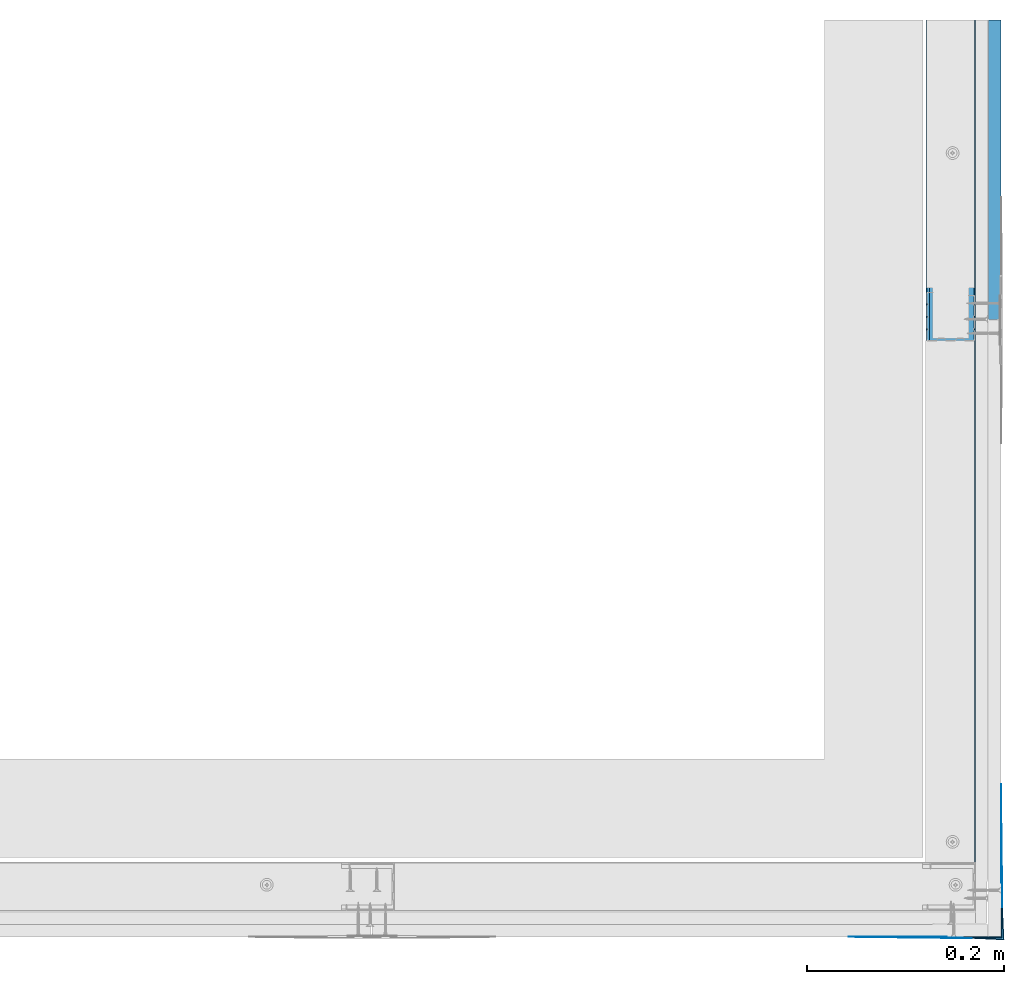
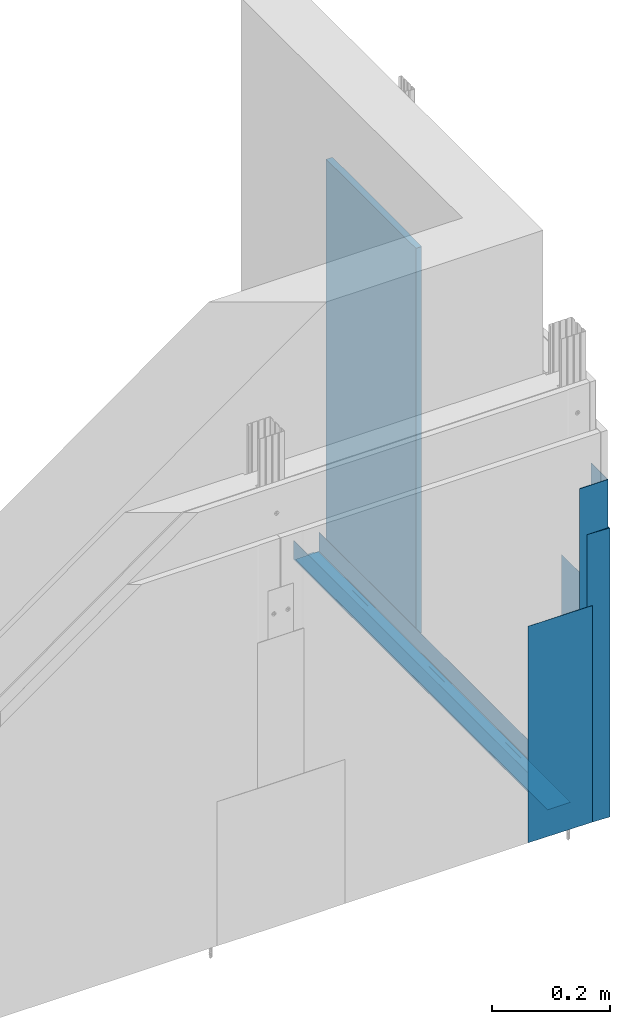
# One storey, part 3 of 43: 7 walls.
"""IFC2X3 building model written with IfcOpenShell, lengths in millimetres."""

from ifc_helpers import new_model, entity, si_unit, converted_unit, direction, frame, origin, origin_with_axes, place, context, project, spatial, faceted_brep, element, save


model = new_model("IFC2X3")

# Units and contexts
model_context = context("Model", 3, precision=1e-05, world=origin(), true_north=direction((0.0, 1.0, 0.0)))
ifc_project = project(units=[si_unit("LENGTHUNIT", "METRE", prefix="MILLI"), si_unit("AREAUNIT", "SQUARE_METRE"), si_unit("VOLUMEUNIT", "CUBIC_METRE"), converted_unit("PLANEANGLEUNIT", "DEGREE", entity("IfcPlaneAngleMeasure", 0.01745), si_unit("PLANEANGLEUNIT", "RADIAN"), dimensions=[0, 0, 0, 0, 0, 0, 0]), si_unit("SOLIDANGLEUNIT", "STERADIAN"), si_unit("MASSUNIT", "GRAM"), si_unit("TIMEUNIT", "SECOND"), si_unit("THERMODYNAMICTEMPERATUREUNIT", "DEGREE_CELSIUS"), si_unit("LUMINOUSINTENSITYUNIT", "LUMEN")], contexts=[model_context])

# Site, building, storey
site_placement = place(None, origin_with_axes())
site = spatial("IfcSite", under=ifc_project, at=site_placement, Name="Default Site", CompositionType="ELEMENT")
building_placement = place(site_placement, origin_with_axes())
building = spatial("IfcBuilding", under=site, at=building_placement, Name="Default Building", CompositionType="ELEMENT")
storey_placement = place(building_placement, origin_with_axes())
storey = spatial("IfcBuildingStorey", under=building, at=storey_placement, Name="Default Building Storey", CompositionType="ELEMENT", Elevation=0.0)

# Walls
wall_1_placement = place(storey_placement, frame((7226.363863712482, 2727.475345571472, 8.24899725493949), z_axis=(-6.858158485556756e-13, 7.620176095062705e-14, 1.0), x_axis=(1.135951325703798e-15, 1.0, -7.620176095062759e-14)))
element("IfcWall", 1, at=wall_1_placement, inside=storey, Name="Profil RIGIPS UW50 ULTRASTIL®", context=model_context, shape_type="Brep", body=[
    faceted_brep([(-709.8976152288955, 3479.733223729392, 35.00000000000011), (-709.8976152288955, 3480.283223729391, 35.00000000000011), (-709.897615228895, 3480.283223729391, -4.19999999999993), (-709.897615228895, 3480.273374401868, -4.32514757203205), (-709.897615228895, 3480.244068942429, -4.447213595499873), (-709.897615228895, 3480.196028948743, -4.563192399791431), (-709.897615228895, 3480.130437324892, -4.670228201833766), (-709.897615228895, 3480.04890915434, -4.765685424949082), (-709.897615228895, 3479.953451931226, -4.84721359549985), (-709.897615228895, 3479.846416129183, -4.912805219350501), (-709.897615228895, 3479.730437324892, -4.960845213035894), (-709.897615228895, 3479.608371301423, -4.990150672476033), (-709.897615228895, 3479.483223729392, -4.999999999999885), (-709.897615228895, 3470.908620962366, -4.999999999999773), (-709.897615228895, 3470.686924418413, -4.975115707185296), (-709.897615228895, 3470.476261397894, -4.901701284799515), (-709.897615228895, 3470.128902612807, -4.626130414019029), (-709.897615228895, 3470.009494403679, -4.437688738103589), (-709.897615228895, 3469.68072520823, -3.762311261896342), (-709.897615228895, 3469.561316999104, -3.573869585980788), (-709.8976152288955, 3469.403103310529, -3.416589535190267), (-709.8976152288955, 3469.213958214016, -3.298298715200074), (-709.8976152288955, 3469.003295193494, -3.224884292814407), (-709.8976152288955, 3468.781598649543, -3.19999999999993), (-709.8976152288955, 3441.78484880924, -3.199999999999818), (-709.8976152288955, 3441.563152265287, -3.224884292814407), (-709.8976152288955, 3441.352489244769, -3.298298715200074), (-709.8976152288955, 3441.163344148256, -3.416589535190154), (-709.897615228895, 3441.005130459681, -3.573869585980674), (-709.897615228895, 3440.885722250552, -3.762311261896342), (-709.897615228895, 3440.556953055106, -4.437688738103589), (-709.897615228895, 3440.437544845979, -4.626130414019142), (-709.897615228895, 3440.279331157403, -4.783410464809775), (-709.897615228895, 3439.87952304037, -4.97511570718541), (-709.897615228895, 3439.657826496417, -4.999999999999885), (-709.897615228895, 3431.083223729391, -4.999999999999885), (-709.897615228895, 3430.95807615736, -4.990150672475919), (-709.897615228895, 3430.836010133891, -4.960845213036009), (-709.897615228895, 3430.7200313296, -4.912805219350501), (-709.897615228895, 3430.612995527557, -4.847213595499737), (-709.897615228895, 3430.517538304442, -4.765685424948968), (-709.897615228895, 3430.436010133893, -4.670228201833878), (-709.897615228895, 3430.370418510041, -4.563192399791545), (-709.897615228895, 3430.322378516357, -4.447213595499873), (-709.897615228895, 3430.293073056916, -4.32514757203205), (-709.897615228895, 3430.283223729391, -4.19999999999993), (-709.8976152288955, 3430.283223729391, 35.00000000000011), (-709.8976152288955, 3430.833223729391, 35.00000000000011), (-709.897615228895, 3430.833223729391, -4.19999999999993), (-709.897615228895, 3430.836301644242, -4.239108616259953), (-709.897615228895, 3430.845459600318, -4.277254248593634), (-709.897615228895, 3430.860472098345, -4.313497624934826), (-709.897615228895, 3430.880969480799, -4.34694631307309), (-709.897615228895, 3430.906447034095, -4.376776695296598), (-709.897615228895, 3430.93627741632, -4.402254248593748), (-709.897615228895, 3430.969726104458, -4.422751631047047), (-709.897615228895, 3431.005969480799, -4.437764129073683), (-709.897615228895, 3431.044115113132, -4.446922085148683), (-709.897615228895, 3431.083223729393, -4.44999999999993), (-709.897615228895, 3439.313858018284, -4.450000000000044), (-709.897615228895, 3439.535554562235, -4.425115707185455), (-709.897615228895, 3439.746217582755, -4.351701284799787), (-709.897615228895, 3439.935362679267, -4.233410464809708), (-709.897615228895, 3440.093576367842, -4.076130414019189), (-709.897615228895, 3440.21298457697, -3.88768873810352), (-709.8976152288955, 3440.541753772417, -3.212311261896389), (-709.8976152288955, 3440.661161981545, -3.023869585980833), (-709.8976152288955, 3440.819375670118, -2.866589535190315), (-709.8976152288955, 3441.219183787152, -2.674884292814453), (-709.8976152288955, 3441.440880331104, -2.649999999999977), (-709.8976152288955, 3469.125567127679, -2.649999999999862), (-709.8976152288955, 3469.347263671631, -2.674884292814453), (-709.8976152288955, 3469.557926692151, -2.748298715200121), (-709.8976152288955, 3469.905285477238, -3.023869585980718), (-709.8976152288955, 3470.024693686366, -3.212311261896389), (-709.897615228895, 3470.353462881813, -3.88768873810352), (-709.897615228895, 3470.472871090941, -4.076130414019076), (-709.897615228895, 3470.631084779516, -4.233410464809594), (-709.897615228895, 3470.82022987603, -4.351701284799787), (-709.897615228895, 3471.030892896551, -4.425115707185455), (-709.897615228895, 3471.252589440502, -4.44999999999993), (-709.897615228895, 3479.483223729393, -4.449999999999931), (-709.897615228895, 3479.522332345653, -4.446922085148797), (-709.897615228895, 3479.560477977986, -4.437764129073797), (-709.897615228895, 3479.596721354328, -4.422751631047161), (-709.897615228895, 3479.630170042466, -4.402254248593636), (-709.897615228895, 3479.660000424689, -4.376776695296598), (-709.897615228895, 3479.685477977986, -4.34694631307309), (-709.897615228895, 3479.705975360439, -4.313497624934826), (-709.897615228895, 3479.720987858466, -4.277254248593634), (-709.897615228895, 3479.730145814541, -4.239108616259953), (-709.897615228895, 3479.733223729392, -4.19999999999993), (145.5411587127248, 3480.283223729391, -4.200000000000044), (145.5411587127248, 3480.283223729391, 35.0), (145.5411587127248, 3479.733223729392, 35.0), (145.5411587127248, 3479.733223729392, -4.200000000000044), (145.5411587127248, 3479.730145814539, -4.239108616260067), (145.5411587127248, 3479.720987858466, -4.277254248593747), (145.5411587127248, 3479.705975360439, -4.313497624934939), (145.5411587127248, 3479.685477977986, -4.346946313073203), (145.5411587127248, 3479.660000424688, -4.376776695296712), (145.5411587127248, 3479.630170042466, -4.402254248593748), (145.5411587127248, 3479.596721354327, -4.422751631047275), (145.5411587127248, 3479.560477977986, -4.43776412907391), (145.5411587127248, 3479.522332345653, -4.446922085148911), (145.5411587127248, 3479.483223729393, -4.450000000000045), (145.5411587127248, 3471.252589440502, -4.450000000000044), (145.5411587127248, 3471.03089289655, -4.425115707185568), (145.5411587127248, 3470.820229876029, -4.351701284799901), (145.5411587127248, 3470.631084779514, -4.233410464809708), (145.5411587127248, 3470.472871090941, -4.076130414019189), (145.5411587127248, 3470.353462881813, -3.887688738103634), (145.5411587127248, 3470.024693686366, -3.212311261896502), (145.5411587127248, 3469.905285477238, -3.023869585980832), (145.5411587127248, 3469.557926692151, -2.748298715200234), (145.5411587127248, 3469.34726367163, -2.674884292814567), (145.5411587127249, 3469.125567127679, -2.649999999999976), (145.541158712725, 3441.440880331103, -2.65000000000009), (145.5411587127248, 3441.219183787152, -2.674884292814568), (145.5411587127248, 3440.819375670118, -2.866589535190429), (145.5411587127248, 3440.661161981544, -3.023869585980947), (145.5411587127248, 3440.541753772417, -3.212311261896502), (145.5411587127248, 3440.212984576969, -3.887688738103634), (145.5411587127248, 3440.093576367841, -4.076130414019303), (145.5411587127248, 3439.935362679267, -4.233410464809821), (145.5411587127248, 3439.746217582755, -4.351701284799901), (145.5411587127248, 3439.535554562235, -4.425115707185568), (145.5411587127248, 3439.313858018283, -4.450000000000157), (145.5411587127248, 3431.083223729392, -4.450000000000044), (145.5411587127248, 3431.044115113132, -4.446922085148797), (145.5411587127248, 3431.005969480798, -4.437764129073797), (145.5411587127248, 3430.969726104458, -4.422751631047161), (145.5411587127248, 3430.936277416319, -4.402254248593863), (145.5411587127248, 3430.906447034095, -4.376776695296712), (145.5411587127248, 3430.880969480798, -4.346946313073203), (145.5411587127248, 3430.860472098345, -4.313497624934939), (145.5411587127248, 3430.845459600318, -4.277254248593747), (145.5411587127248, 3430.836301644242, -4.239108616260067), (145.5411587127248, 3430.833223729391, -4.200000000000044), (145.5411587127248, 3430.833223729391, 35.0), (145.5411587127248, 3430.283223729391, 35.0), (145.5411587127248, 3430.283223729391, -4.200000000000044), (145.5411587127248, 3430.293073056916, -4.325147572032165), (145.5411587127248, 3430.322378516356, -4.447213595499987), (145.5411587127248, 3430.370418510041, -4.563192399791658), (145.5411587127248, 3430.436010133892, -4.670228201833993), (145.5411587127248, 3430.517538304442, -4.765685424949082), (145.5411587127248, 3430.612995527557, -4.84721359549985), (145.5411587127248, 3430.7200313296, -4.912805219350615), (145.5411587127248, 3430.836010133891, -4.960845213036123), (145.5411587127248, 3430.958076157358, -4.990150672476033), (145.5411587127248, 3431.083223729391, -4.999999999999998), (145.5411587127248, 3439.657826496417, -4.999999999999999), (145.5411587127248, 3439.879523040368, -4.975115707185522), (145.5411587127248, 3440.279331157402, -4.783410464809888), (145.5411587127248, 3440.437544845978, -4.626130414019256), (145.5411587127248, 3440.556953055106, -4.437688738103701), (145.5411587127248, 3440.885722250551, -3.762311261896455), (145.5411587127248, 3441.005130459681, -3.573869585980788), (145.5411587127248, 3441.163344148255, -3.416589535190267), (145.5411587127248, 3441.352489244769, -3.298298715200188), (145.5411587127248, 3441.563152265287, -3.224884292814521), (145.5411587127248, 3441.78484880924, -3.199999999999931), (145.5411587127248, 3468.781598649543, -3.200000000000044), (145.5411587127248, 3469.003295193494, -3.224884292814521), (145.5411587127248, 3469.213958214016, -3.298298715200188), (145.5411587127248, 3469.403103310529, -3.416589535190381), (145.5411587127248, 3469.561316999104, -3.573869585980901), (145.5411587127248, 3469.680725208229, -3.762311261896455), (145.5411587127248, 3470.009494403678, -4.437688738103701), (145.5411587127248, 3470.128902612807, -4.626130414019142), (145.5411587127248, 3470.476261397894, -4.901701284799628), (145.5411587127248, 3470.686924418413, -4.97511570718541), (145.5411587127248, 3470.908620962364, -4.999999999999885), (145.5411587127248, 3479.483223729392, -4.999999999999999), (145.5411587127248, 3479.608371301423, -4.990150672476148), (145.5411587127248, 3479.73043732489, -4.960845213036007), (145.5411587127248, 3479.846416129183, -4.912805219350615), (145.5411587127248, 3479.953451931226, -4.847213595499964), (145.5411587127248, 3480.04890915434, -4.765685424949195), (145.5411587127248, 3480.130437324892, -4.670228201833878), (145.5411587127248, 3480.196028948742, -4.563192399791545), (145.5411587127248, 3480.244068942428, -4.447213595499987), (145.5411587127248, 3480.273374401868, -4.325147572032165), (-709.8976152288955, 3441.008520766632, -2.748298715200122), (145.5411587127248, 3441.008520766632, -2.748298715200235), (-709.8976152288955, 3469.747071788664, -2.8665895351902), (145.5411587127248, 3469.747071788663, -2.866589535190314), (-709.897615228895, 3470.063927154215, -4.535249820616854), (145.5411587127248, 3470.063927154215, -4.535249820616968), (-709.897615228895, 3470.287116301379, -4.783410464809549), (145.5411587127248, 3470.287116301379, -4.783410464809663), (-709.897615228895, 3440.09018606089, -4.901701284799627), (145.5411587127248, 3440.09018606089, -4.90170128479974)], [[[0, 1, 2, 3, 4, 5, 6, 7, 8, 9, 10, 11, 12, 13, 14, 15, 16, 17, 18, 19, 20, 21, 22, 23, 24, 25, 26, 27, 28, 29, 30, 31, 32, 33, 34, 35, 36, 37, 38, 39, 40, 41, 42, 43, 44, 45, 46, 47, 48, 49, 50, 51, 52, 53, 54, 55, 56, 57, 58, 59, 60, 61, 62, 63, 64, 65, 66, 67, 68, 69, 70, 71, 72, 73, 74, 75, 76, 77, 78, 79, 80, 81, 82, 83, 84, 85, 86, 87, 88, 89, 90, 91]], [[92, 93, 94, 95, 96, 97, 98, 99, 100, 101, 102, 103, 104, 105, 106, 107, 108, 109, 110, 111, 112, 113, 114, 115, 116, 117, 118, 119, 120, 121, 122, 123, 124, 125, 126, 127, 128, 129, 130, 131, 132, 133, 134, 135, 136, 137, 138, 139, 140, 141, 142, 143, 144, 145, 146, 147, 148, 149, 150, 151, 152, 153, 154, 155, 156, 157, 158, 159, 160, 161, 162, 163, 164, 165, 166, 167, 168, 169, 170, 171, 172, 173, 174, 175, 176, 177, 178, 179, 180, 181, 182, 183]], [[45, 141, 140, 46]], [[46, 140, 139, 47]], [[47, 139, 138, 48]], [[128, 58, 57, 129]], [[56, 130, 129, 57]], [[55, 131, 130, 56]], [[131, 55, 54, 132]], [[53, 133, 132, 54]], [[133, 53, 52, 134]], [[51, 135, 134, 52]], [[50, 136, 135, 51]], [[136, 50, 49, 137]], [[48, 138, 137, 49]], [[58, 128, 127, 59]], [[63, 123, 122, 64]], [[62, 124, 123, 63]], [[61, 125, 124, 62]], [[127, 126, 60, 59]], [[60, 126, 125, 61]], [[64, 122, 121, 65]], [[68, 118, 117, 69]], [[184, 185, 118, 68]], [[67, 119, 185, 184]], [[66, 120, 119, 67]], [[121, 120, 66, 65]], [[69, 117, 116, 70]], [[73, 113, 112, 74]], [[186, 187, 113, 73]], [[72, 114, 187, 186]], [[71, 115, 114, 72]], [[116, 115, 71, 70]], [[74, 112, 111, 75]], [[79, 107, 106, 80]], [[78, 108, 107, 79]], [[77, 109, 108, 78]], [[111, 110, 76, 75]], [[76, 110, 109, 77]], [[80, 106, 105, 81]], [[95, 91, 90, 96]], [[89, 97, 96, 90]], [[88, 98, 97, 89]], [[98, 88, 87, 99]], [[86, 100, 99, 87]], [[100, 86, 85, 101]], [[84, 102, 101, 85]], [[83, 103, 102, 84]], [[103, 83, 82, 104]], [[81, 105, 104, 82]], [[91, 95, 94, 0]], [[0, 94, 93, 1]], [[1, 93, 92, 2]], [[11, 10, 176, 175]], [[175, 174, 12, 11]], [[9, 177, 176, 10]], [[8, 7, 179, 178]], [[178, 177, 9, 8]], [[6, 5, 181, 180]], [[180, 179, 7, 6]], [[4, 182, 181, 5]], [[3, 2, 92, 183]], [[183, 182, 4, 3]], [[12, 174, 173, 13]], [[188, 16, 170, 189]], [[189, 169, 17, 188]], [[190, 191, 170, 16]], [[15, 171, 191, 190]], [[14, 172, 171, 15]], [[173, 172, 14, 13]], [[17, 169, 168, 18]], [[22, 164, 163, 23]], [[21, 165, 164, 22]], [[20, 166, 165, 21]], [[168, 167, 19, 18]], [[19, 167, 166, 20]], [[23, 163, 162, 24]], [[28, 158, 157, 29]], [[27, 159, 158, 28]], [[26, 160, 159, 27]], [[162, 161, 25, 24]], [[25, 161, 160, 26]], [[29, 157, 156, 30]], [[33, 153, 152, 34]], [[192, 193, 153, 33]], [[32, 154, 193, 192]], [[31, 155, 154, 32]], [[156, 155, 31, 30]], [[34, 152, 151, 35]], [[44, 43, 143, 142]], [[142, 141, 45, 44]], [[42, 144, 143, 43]], [[41, 40, 146, 145]], [[145, 144, 42, 41]], [[39, 38, 148, 147]], [[147, 146, 40, 39]], [[37, 149, 148, 38]], [[36, 35, 151, 150]], [[150, 149, 37, 36]]]),
])
wall_2_placement = place(storey_placement, frame((7227.36386371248, 2731.408890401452, 8.248997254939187), z_axis=(-6.858158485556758e-13, 7.620176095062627e-14, 1.0), x_axis=(-4.301336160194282e-16, 1.0, -7.620176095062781e-14)))
element("IfcWall", 2, at=wall_2_placement, inside=storey, Name="Taśma uszczelniająca piankowa RIGIPS", context=model_context, shape_type="Brep", body=[
    faceted_brep([(-713.8311600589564, 3477.783223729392, -5.000000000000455), (-713.8311600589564, 3477.862841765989, -6.006369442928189), (-713.8311600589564, 3432.691889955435, -5.864971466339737), (-713.8311600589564, 3432.783223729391, -5.000000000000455), (141.6076138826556, 3477.862841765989, -6.006369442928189), (141.6076138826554, 3477.783223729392, -5.000000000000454), (141.6076138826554, 3432.783223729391, -5.000000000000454), (141.6076138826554, 3432.691889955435, -5.864971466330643)], [[[0, 1, 2, 3]], [[4, 5, 6, 7]], [[5, 0, 3, 6]], [[6, 3, 2, 7]], [[7, 2, 1, 4]], [[4, 1, 0, 5]]]),
])
wall_3_placement = place(storey_placement, frame((3809.795133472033, 3768.756799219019, 1059.999999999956), z_axis=(0.0, 0.0, 1.0), x_axis=(6.387668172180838e-13, -1.0, 0.0)))
element("IfcWall", 3, at=wall_3_placement, inside=storey, Name="Płyta gipsowo-kartonowa RIGIPS PRO (4PRO™)", context=model_context, shape_type="Brep", body=[
    faceted_brep([(895.7402949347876, -2.793797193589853e-10, -249.9999999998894), (895.7402949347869, 12.49999999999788, -249.9999999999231), (895.7402949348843, 12.49999999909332, -1050.001581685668), (895.7402949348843, -1.183934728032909e-09, -1050.001581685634), (1155.000000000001, 12.49999999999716, -249.9999999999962), (1200.0, 1.443822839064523e-12, -249.9999999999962), (1200.000000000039, 10.49999999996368, -249.9999999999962), (1199.965925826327, 10.75881904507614, -249.9999999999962), (1199.866025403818, 10.99999999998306, -249.9999999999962), (1199.707106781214, 11.20710678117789, -249.9999999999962), (1199.50000000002, 11.36602540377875, -249.9999999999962), (1199.258819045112, 11.46592582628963, -249.9999999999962), (1199.0, 11.50000000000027, -249.9999999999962), (1158.999999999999, 11.50000000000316, -249.9999999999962), (1199.965925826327, 10.75881904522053, -1050.001581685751), (1199.866025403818, 11.00000000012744, -1050.001581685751), (1199.707106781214, 11.20710678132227, -1050.001581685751), (1199.50000000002, 11.36602540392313, -1050.001581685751), (1199.258819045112, 11.46592582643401, -1050.001581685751), (1199.0, 11.50000000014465, -1050.001581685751), (1158.999999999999, 11.50000000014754, -1050.001581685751), (1155.000000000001, 12.50000000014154, -1050.001581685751), (1200.0, 1.458261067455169e-10, -1050.001581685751), (1200.000000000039, 10.50000000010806, -1050.001581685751)], [[[0, 1, 2, 3]], [[4, 1, 0, 5, 6, 7, 8, 9, 10, 11, 12, 13]], [[8, 7, 14, 15]], [[9, 8, 15, 16]], [[10, 9, 16, 17]], [[11, 10, 17, 18]], [[12, 11, 18, 19]], [[13, 12, 19, 20]], [[4, 13, 20, 21]], [[21, 2, 1, 4]], [[0, 3, 22, 5]], [[6, 5, 22, 23]], [[7, 6, 23, 14]], [[14, 23, 22, 3, 2, 21, 20, 19, 18, 17, 16, 15]]]),
])
wall_4_placement = place(storey_placement, frame((3782.295133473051, 1938.180077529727, 809.999999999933), z_axis=(0.0, 0.0, 1.0), x_axis=(1.0, 0.0, 0.0)))
element("IfcWall", 4, at=wall_4_placement, inside=storey, Name="Taśma narożnikowa HABITO® NO-COAT®", context=model_context, shape_type="Brep", body=[
    faceted_brep([(40.99999999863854, 43.00000000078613, -201.6515786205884), (42.99999999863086, 7.829129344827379e-10, -201.6515786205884), (42.99999999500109, 3.099887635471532e-09, -800.0015816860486), (40.99999999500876, 43.0000000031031, -800.0015816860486), (-1.233746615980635e-09, 2.00000000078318, -201.6515786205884), (-4.863517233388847e-09, 2.000000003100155, -800.0015816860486), (40.99999999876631, 2.000000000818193, -201.6515786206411), (40.99999999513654, 2.000000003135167, -800.0015816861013)], [[[0, 1, 2, 3]], [[1, 4, 5, 2]], [[6, 4, 1, 0]], [[4, 6, 7, 5]], [[6, 0, 3, 7]], [[7, 3, 2, 5]]]),
])
wall_5_placement = place(storey_placement, frame((3743.295133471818, 1940.180077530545, 608.3484213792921), z_axis=(0.0, 0.0, 1.0), x_axis=(1.0, 0.0, 0.0)))
element("IfcWall", 5, at=wall_5_placement, inside=storey, Name="Dedykowana masa szpachlowa Rigips - konstrukcyjna", context=model_context, shape_type="Brep", body=[
    faceted_brep([(23.99999999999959, 9.796337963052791e-10, 100.0000000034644), (23.99999999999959, 1.000000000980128, 100.000000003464), (23.99999999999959, 0.9999999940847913, -598.3500030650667), (23.99999999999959, -5.915703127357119e-09, -598.3500030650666), (79.0000000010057, 1.000000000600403, 100.0000000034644), (79.0000000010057, 0.999999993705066, -598.3500030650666), (79.0000000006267, 56.0000000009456, 100.0000000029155), (79.0000000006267, 55.99999999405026, -598.350003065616), (80.0000000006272, 56.0000000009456, 100.0000000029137), (80.0000000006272, 55.99999999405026, -598.3500030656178), (79.99999999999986, 9.796337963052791e-10, 100.0000000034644), (79.99999999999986, -5.915703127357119e-09, -598.3500030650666)], [[[0, 1, 2, 3]], [[1, 4, 5, 2]], [[4, 6, 7, 5]], [[6, 8, 9, 7]], [[8, 10, 11, 9]], [[10, 0, 3, 11]], [[11, 3, 2, 5, 7, 9]], [[0, 10, 8, 6, 4, 1]]]),
])
wall_6_placement = place(storey_placement, frame((3825.295133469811, 2096.180077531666, 608.3484213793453), z_axis=(0.0, 0.0, 1.0), x_axis=(3.609335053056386e-13, -1.0, 0.0)))
element("IfcWall", 6, at=wall_6_placement, inside=storey, Name="Dedykowana masa szpachlowa Rigips - wykończeniowa", context=model_context, shape_type="Brep", body=[
    faceted_brep([(9.023892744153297e-13, -3.000000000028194, -598.3500030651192), (100.0000000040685, -3.000000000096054, -598.3500030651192), (100.0000000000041, -2.000000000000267, -598.3500030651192), (100.0000000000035, -1.827216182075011, -598.3500030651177), (125.0248246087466, -1.533729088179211, -149.9999999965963), (1.353583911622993e-12, -3.000000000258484, -149.9999999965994), (125.0248246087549, -1.533729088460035, -598.3500030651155), (114.9999999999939, -2.000000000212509, -149.9999999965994), (100.0000000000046, -2.000000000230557, -149.9999999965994), (100.0000000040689, -3.000000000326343, -149.9999999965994)], [[[0, 1, 2, 3]], [[4, 5, 0, 3, 6]], [[4, 7, 8, 9, 5]], [[5, 9, 1, 0]], [[9, 8, 2, 1]]]),
])
wall_7_placement = place(storey_placement, frame((3667.280238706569, 1938.180077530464, 608.3484213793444), z_axis=(0.0, 0.0, 1.0), x_axis=(1.0, 3.608002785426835e-13, 0.0)))
element("IfcWall", 7, at=wall_7_placement, inside=storey, Name="Dedykowana masa szpachlowa Rigips - wykończeniowa", context=model_context, shape_type="Brep", body=[
    faceted_brep([(9.008863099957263e-13, 3.000000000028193, -598.3500030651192), (100.0000000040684, 3.000000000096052, -598.3500030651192), (100.0000000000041, 2.000000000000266, -598.3500030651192), (100.0000000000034, 1.82721618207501, -598.3500030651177), (125.0248246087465, 1.533729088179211, -149.9999999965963), (1.352080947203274e-12, 3.000000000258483, -149.9999999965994), (125.0248246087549, 1.533729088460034, -598.3500030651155), (114.9999999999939, 2.000000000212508, -149.9999999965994), (100.0000000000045, 2.000000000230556, -149.9999999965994), (100.0000000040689, 3.000000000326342, -149.9999999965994)], [[[0, 1, 2, 3]], [[4, 5, 0, 3, 6]], [[4, 7, 8, 9, 5]], [[5, 9, 1, 0]], [[9, 8, 2, 1]]]),
])

save(model, "model.ifc")
